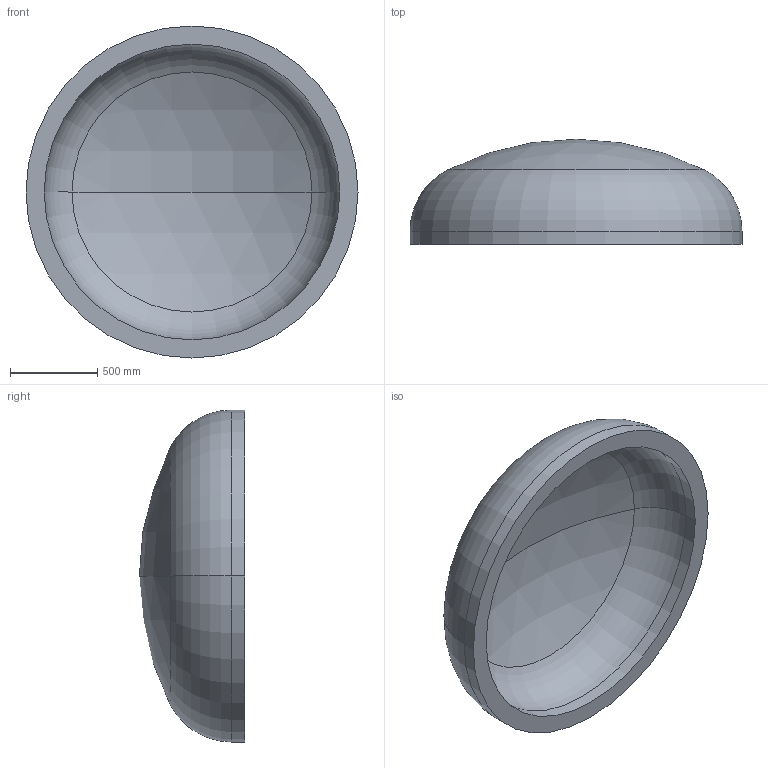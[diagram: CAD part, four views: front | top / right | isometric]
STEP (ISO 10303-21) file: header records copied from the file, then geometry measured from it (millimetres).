
FILE_DESCRIPTION (( 'STEP AP203' ), '1' );
FILE_NAME ('DIN 28013 Korbbogenform_-_Boden DIN 28013 - 1900 x 75 - I - s=104.step', '2016-07-01T13:26:56', ( '' ), ( '' ), 'SwSTEP 2.0', 'SolidWorks 2013', '' );
FILE_SCHEMA (( 'CONFIG_CONTROL_DESIGN' ));
Length unit declared in the file: millimetre
Products named in the file (1): DIN 28013 Korbbogenform_-_Boden DIN 28013 - 1900 x 75 - I - s=104
Bounding box: 1900 x 601.84 x 1900 mm (x, y, z)
Volume: 424069047.7 mm3; surface area: 8764624 mm2
Topology: 1 solids, 1 shells, 13 faces, 24 edges, 14 vertices
Faces by surface type: torus 4, cylinder 4, sphere 4, plane 1
Entity records: 407 total; most frequent: DIRECTION 72, CARTESIAN_POINT 52, ORIENTED_EDGE 48, AXIS2_PLACEMENT_3D 34, EDGE_CURVE 24, CIRCLE 20, VERTEX_POINT 14, EDGE_LOOP 14
